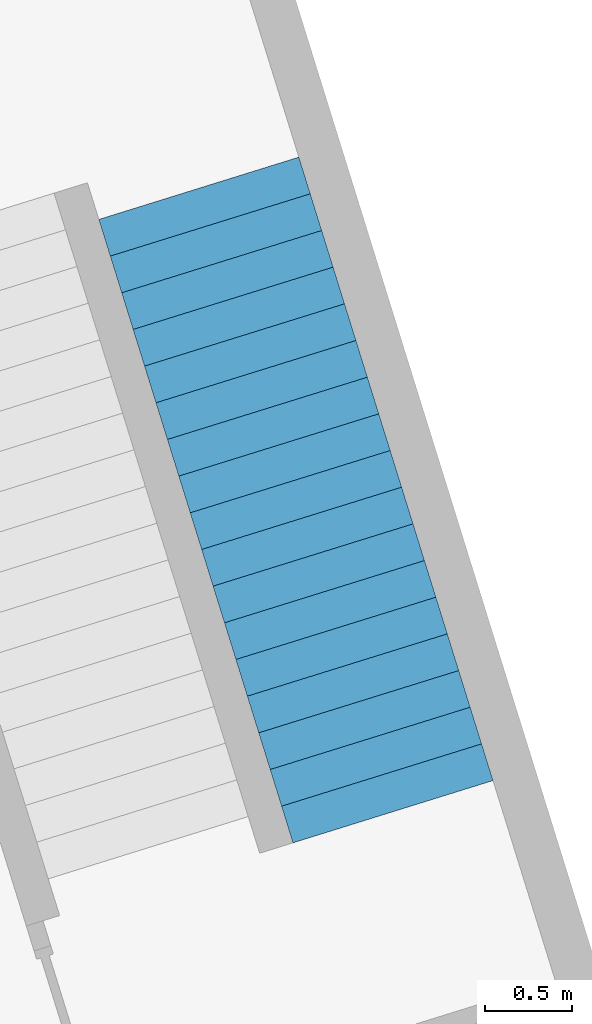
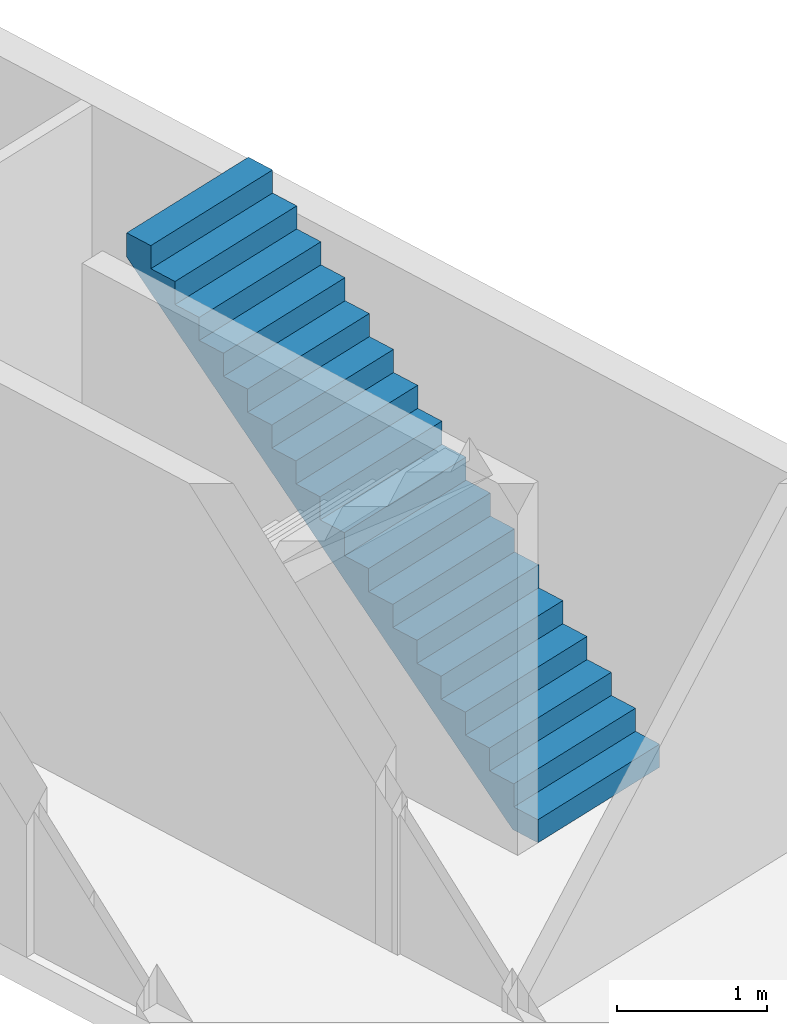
# One storey, part 3 of 3: 1 stair flight, 1 element without a shape of its own.
"""IFC4 building model written with IfcOpenShell, lengths in metres."""

from ifc_helpers import new_model, entity, si_unit, converted_unit, direction, frame, origin, place, context, subcontext, project, spatial, polygons, material, type_object, element, aggregate, save


model = new_model("IFC4")

# Units and contexts
model_context = context("Model", 3, precision=1e-05, world=origin(), true_north=direction((6.12323399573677e-17, 1.0)))
body_context = subcontext(model_context, "Body", "Model", "MODEL_VIEW")
ifc_project = project(units=[si_unit("LENGTHUNIT", "METRE"), si_unit("AREAUNIT", "SQUARE_METRE"), si_unit("VOLUMEUNIT", "CUBIC_METRE"), converted_unit("PLANEANGLEUNIT", "DEGREE", entity("IfcPlaneAngleMeasure", 0.0174532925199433), si_unit("PLANEANGLEUNIT", "RADIAN"), dimensions=[0, 0, 0, 0, 0, 0, 0])], contexts=[model_context])

# Site, building, storey
site_placement = place(None, frame((13.1347999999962, 11.9886000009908, 0.0), z_axis=(0.0, 0.0, 1.0), x_axis=(0.954770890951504, 0.297342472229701, 0.0)))
site = spatial("IfcSite", under=ifc_project, at=site_placement, Name="Schiehaven", CompositionType="ELEMENT")
building_placement = place(site_placement, origin())
building = spatial("IfcBuilding", under=site, at=building_placement, Name="VORM huis", CompositionType="ELEMENT")
storey_placement = place(building_placement, frame((0.0, 0.0, -3.2)))
storey = spatial("IfcBuildingStorey", under=building, at=storey_placement, Name="-1 kelder", CompositionType="ELEMENT", Elevation=-3.2)

# Stair, stair flight
stair_type = type_object("IfcStairType", Name="Trap", PredefinedType="STRAIGHT_RUN_STAIR")
stair_placement = place(storey_placement, origin())
stair = element("IfcStair", 1, at=stair_placement, inside=storey, type_object=stair_type, Name="Hoofdtrap", ObjectType="Precast Stair:NLRS_24_STR_reguliere trap-woonfunctie-breedte 1200mm_gen", PredefinedType="STRAIGHT_RUN_STAIR")
ifc_material = material(Name="beton_gewapend_prefab-element", Category="Miscellaneous")
stair_flight_type = type_object("IfcStairFlightType", Name="Monolithic Run:NLRS_24_STRR_trap-beton prefab-monolithisch-recht_gen_rsf", PredefinedType="STRAIGHT")
stair_flight_placement = place(stair_placement, frame((18.6750000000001, 15.07, 0.0)))
stair_flight = element("IfcStairFlight", 2, at=stair_flight_placement, type_object=stair_flight_type, material=ifc_material, Name="Hoofdtrap Run 1", ObjectType="Monolithic Run:NLRS_24_STRR_trap-beton prefab-monolithisch-recht_gen_rsf", PredefinedType="STRAIGHT", context=body_context, shape_type="Tessellation", body=[
    polygons([(0.0, 0.219999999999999, 0.188235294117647), (0.0, 1.77635683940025e-15, 0.188235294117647), (1.2, 1.77635683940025e-15, 0.188235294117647), (1.2, 0.219999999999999, 0.188235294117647), (0.0, 0.219999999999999, 0.0), (0.0, 1.77635683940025e-15, 0.0), (1.2, 1.77635683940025e-15, 0.0), (1.2, 0.219999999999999, 0.0), (0.0, 0.440000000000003, 0.376470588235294), (0.0, 0.219999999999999, 0.376470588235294), (1.2, 0.219999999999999, 0.376470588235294), (1.2, 0.440000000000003, 0.376470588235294), (0.0, 0.44, 0.179057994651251), (0.0, 0.230725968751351, 4.44089209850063e-16), (1.2, 0.230725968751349, 0.0), (1.2, 0.44, 0.179057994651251), (3.5527136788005e-15, 0.660000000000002, 0.564705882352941), (0.0, 0.440000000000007, 0.564705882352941), (1.2, 0.440000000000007, 0.564705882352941), (1.2, 0.660000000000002, 0.564705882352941), (0.0, 0.660000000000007, 0.367293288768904), (1.2, 0.660000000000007, 0.367293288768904), (3.5527136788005e-15, 0.879999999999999, 0.752941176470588), (0.0, 0.66, 0.752941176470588), (1.2, 0.66, 0.752941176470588), (1.2, 0.879999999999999, 0.752941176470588), (0.0, 0.880000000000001, 0.555528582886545), (1.2, 0.880000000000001, 0.555528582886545), (3.5527136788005e-15, 1.1, 0.941176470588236), (0.0, 0.880000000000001, 0.941176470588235), (1.2, 0.880000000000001, 0.941176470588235), (1.2, 1.1, 0.941176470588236), (0.0, 1.10000000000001, 0.743763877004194), (1.2, 1.10000000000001, 0.743763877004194), (3.5527136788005e-15, 1.32, 1.12941176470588), (0.0, 1.1, 1.12941176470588), (1.2, 1.1, 1.12941176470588), (1.2, 1.32, 1.12941176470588), (0.0, 1.32, 0.931999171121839), (1.2, 1.32, 0.931999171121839), (3.5527136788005e-15, 1.54, 1.31764705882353), (0.0, 1.32, 1.31764705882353), (1.2, 1.32, 1.31764705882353), (1.2, 1.54, 1.31764705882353), (0.0, 1.54, 1.12023446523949), (1.2, 1.54, 1.12023446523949), (3.5527136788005e-15, 1.76, 1.50588235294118), (0.0, 1.54000000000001, 1.50588235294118), (1.2, 1.54000000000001, 1.50588235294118), (1.2, 1.76, 1.50588235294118), (3.5527136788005e-15, 1.76000000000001, 1.30846975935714), (1.2, 1.76000000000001, 1.30846975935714), (3.5527136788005e-15, 1.98, 1.69411764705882), (3.5527136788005e-15, 1.76, 1.69411764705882), (1.20000000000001, 1.76, 1.69411764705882), (1.2, 1.98, 1.69411764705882), (3.5527136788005e-15, 1.98, 1.49670505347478), (1.2, 1.98, 1.49670505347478), (3.5527136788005e-15, 2.2, 1.88235294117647), (3.5527136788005e-15, 1.98, 1.88235294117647), (1.20000000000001, 1.98, 1.88235294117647), (1.2, 2.2, 1.88235294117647), (3.5527136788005e-15, 2.2, 1.68494034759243), (1.2, 2.2, 1.68494034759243), (3.5527136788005e-15, 2.42, 2.07058823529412), (3.5527136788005e-15, 2.2, 2.07058823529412), (1.20000000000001, 2.2, 2.07058823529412), (1.2, 2.42, 2.07058823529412), (3.5527136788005e-15, 2.42, 1.87317564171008), (1.2, 2.42, 1.87317564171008), (3.5527136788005e-15, 2.64, 2.25882352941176), (3.5527136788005e-15, 2.42, 2.25882352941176), (1.20000000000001, 2.42, 2.25882352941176), (1.2, 2.64, 2.25882352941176), (3.5527136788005e-15, 2.64, 2.06141093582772), (1.2, 2.64, 2.06141093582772), (3.5527136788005e-15, 2.86, 2.44705882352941), (3.5527136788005e-15, 2.64, 2.44705882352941), (1.20000000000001, 2.64, 2.44705882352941), (1.2, 2.86, 2.44705882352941), (3.5527136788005e-15, 2.86, 2.24964622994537), (1.2, 2.86, 2.24964622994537), (3.5527136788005e-15, 3.08, 2.63529411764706), (3.5527136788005e-15, 2.86, 2.63529411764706), (1.20000000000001, 2.86, 2.63529411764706), (1.2, 3.08, 2.63529411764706), (7.105427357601e-15, 3.08000000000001, 2.43788152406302), (1.2, 3.08000000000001, 2.43788152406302), (7.105427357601e-15, 3.3, 2.82352941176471), (7.105427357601e-15, 3.08, 2.82352941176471), (1.20000000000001, 3.08, 2.82352941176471), (1.20000000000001, 3.3, 2.82352941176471), (7.105427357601e-15, 3.3, 2.62611681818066), (1.2, 3.3, 2.62611681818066), (7.105427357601e-15, 3.52, 3.01176470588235), (7.105427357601e-15, 3.3, 3.01176470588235), (1.20000000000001, 3.3, 3.01176470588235), (1.20000000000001, 3.52, 3.01176470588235), (7.105427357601e-15, 3.52, 2.81435211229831), (1.2, 3.52, 2.81435211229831), (7.105427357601e-15, 3.74, 3.2), (7.105427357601e-15, 3.52, 3.2), (1.20000000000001, 3.52, 3.2), (1.20000000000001, 3.74, 3.2), (3.5527136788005e-15, 3.74, 3.00258740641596), (1.2, 3.74, 3.00258740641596)], [[[1, 2, 3, 4]], [[2, 1, 5, 6]], [[3, 2, 6, 7]], [[4, 3, 7, 8]], [[9, 10, 11, 12]], [[5, 1, 10, 9, 13, 14]], [[1, 4, 11, 10]], [[4, 8, 15, 16, 12, 11]], [[17, 18, 19, 20]], [[18, 17, 21, 13, 9]], [[9, 12, 19, 18]], [[20, 19, 12, 16, 22]], [[23, 24, 25, 26]], [[24, 23, 27, 21, 17]], [[17, 20, 25, 24]], [[26, 25, 20, 22, 28]], [[29, 30, 31, 32]], [[30, 29, 33, 27, 23]], [[23, 26, 31, 30]], [[32, 31, 26, 28, 34]], [[35, 36, 37, 38]], [[36, 35, 39, 33, 29]], [[29, 32, 37, 36]], [[38, 37, 32, 34, 40]], [[41, 42, 43, 44]], [[42, 41, 45, 39, 35]], [[35, 38, 43, 42]], [[44, 43, 38, 40, 46]], [[47, 48, 49, 50]], [[48, 47, 51, 45, 41]], [[41, 44, 49, 48]], [[50, 49, 44, 46, 52]], [[53, 54, 55, 56]], [[54, 53, 57, 51, 47]], [[47, 50, 55, 54]], [[56, 55, 50, 52, 58]], [[59, 60, 61, 62]], [[60, 59, 63, 57, 53]], [[53, 56, 61, 60]], [[62, 61, 56, 58, 64]], [[65, 66, 67, 68]], [[66, 65, 69, 63, 59]], [[59, 62, 67, 66]], [[68, 67, 62, 64, 70]], [[71, 72, 73, 74]], [[72, 71, 75, 69, 65]], [[65, 68, 73, 72]], [[74, 73, 68, 70, 76]], [[77, 78, 79, 80]], [[78, 77, 81, 75, 71]], [[71, 74, 79, 78]], [[80, 79, 74, 76, 82]], [[83, 84, 85, 86]], [[84, 83, 87, 81, 77]], [[77, 80, 85, 84]], [[86, 85, 80, 82, 88]], [[89, 90, 91, 92]], [[90, 89, 93, 87, 83]], [[83, 86, 91, 90]], [[92, 91, 86, 88, 94]], [[95, 96, 97, 98]], [[96, 95, 99, 93, 89]], [[89, 92, 97, 96]], [[98, 97, 92, 94, 100]], [[101, 102, 103, 104]], [[102, 101, 105, 99, 95]], [[95, 98, 103, 102]], [[104, 103, 98, 100, 106]], [[101, 104, 106, 105]], [[6, 5, 14, 15, 8, 7]], [[15, 14, 13, 21, 27, 33, 39, 45, 51, 57, 63, 69, 75, 81, 87, 93, 99, 105, 106, 100, 94, 88, 82, 76, 70, 64, 58, 52, 46, 40, 34, 28, 22, 16]]], closed=True),
])
aggregate(stair, [stair_flight])

save(model, "model.ifc")
